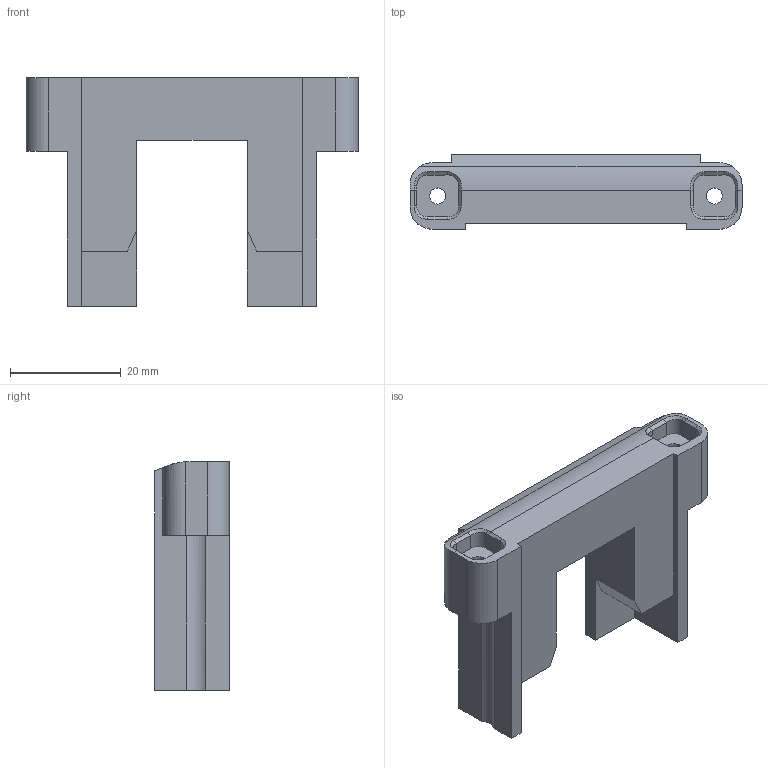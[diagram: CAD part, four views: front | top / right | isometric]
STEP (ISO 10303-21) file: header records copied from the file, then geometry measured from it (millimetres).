
FILE_DESCRIPTION(/* description */ (''),/* implementation_level */ '2;1');
FILE_NAME(/* name */ 'Bridge B.stp',/* time_stamp */ '2025-11-21T05:33:40+09:00',/* author */ (''),/* organization */ (''),/* preprocessor_version */ 'ST-DEVELOPER v11',/* originating_system */ 'SIEMENS PLM Software NX 7.5',/* authorisation */ '');
FILE_SCHEMA (('CONFIG_CONTROL_DESIGN'));
Length unit declared in the file: millimetre
Products named in the file (1): gyunCC550suf
Bounding box: 60 x 13.5 x 41.35 mm (x, y, z)
Volume: 15103.9 mm3; surface area: 6657.9 mm2
Topology: 1 solids, 1 shells, 82 faces, 225 edges, 147 vertices
Faces by surface type: plane 51, cylinder 19, cone 8, bspline 4
Full cylindrical faces by diameter (mm): 2.9 x4, 6 x2
Entity records: 2650 total; most frequent: CARTESIAN_POINT 546, ORIENTED_EDGE 428, DIRECTION 396, EDGE_CURVE 214, VERTEX_POINT 142, LINE 140, VECTOR 140, AXIS2_PLACEMENT_3D 128
